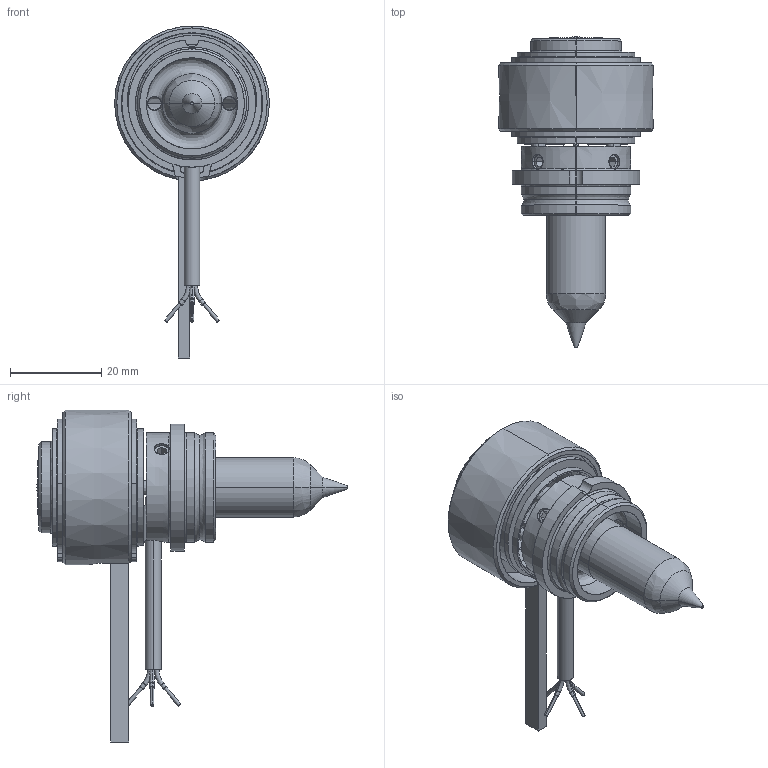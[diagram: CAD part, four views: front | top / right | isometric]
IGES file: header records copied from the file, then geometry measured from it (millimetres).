
Start section: SolidWorks IGES file using analytic representation for surfaces
Global section: file name: C:\Documents and Settings\ws-20\Desktop\TEM\UGGS2510-M-1 [Øf-0.68].IGS; native system: SolidWorks 2012; preprocessor: SolidWorks 2012; author: ws-20; date: 120516.092633; units: millimetre
Bounding box: 34 x 68.3 x 72.9 mm (x, y, z)
Surface area: 15126.3 mm2 (no closed solid volume)
Topology: 0 solids, 0 shells, 207 faces, 2899 edges, 2893 vertices
Faces by surface type: revolution 121, bspline 86
